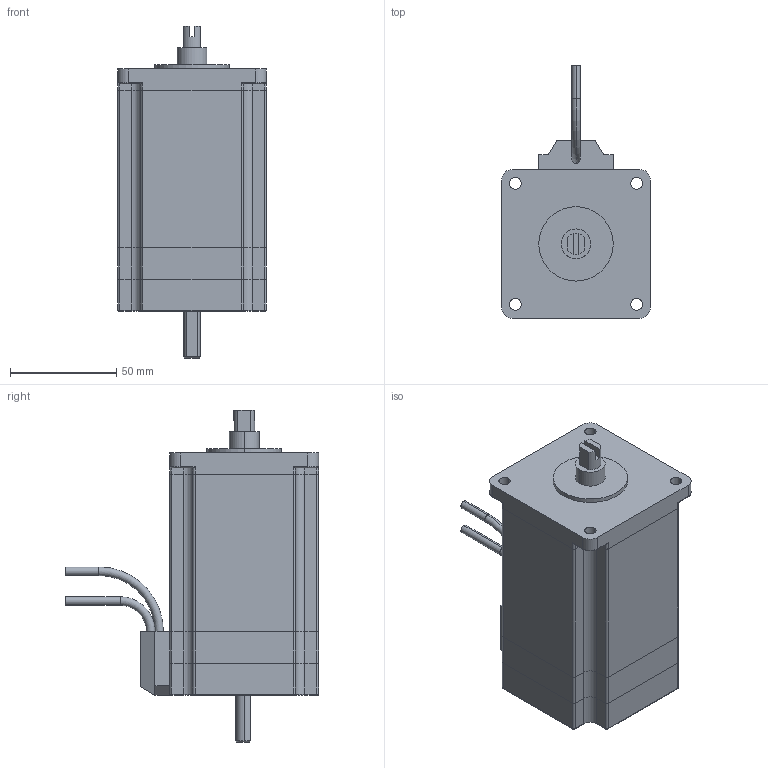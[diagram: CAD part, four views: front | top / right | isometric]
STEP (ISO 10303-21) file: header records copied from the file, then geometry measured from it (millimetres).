
FILE_DESCRIPTION (( 'STEP AP214' ), '1' );
FILE_NAME ('PBL70-70.STEP', '2024-01-02T09:06:25', ( '' ), ( '' ), 'SwSTEP 2.0', 'SolidWorks 2023', '' );
FILE_SCHEMA (( 'AUTOMOTIVE_DESIGN' ));
Length unit declared in the file: millimetre
Products named in the file (1): PBL70-70
Bounding box: 70 x 119.11 x 156.2 mm (x, y, z)
Volume: 525954.9 mm3; surface area: 45165.4 mm2
Topology: 1 solids, 1 shells, 214 faces, 492 edges, 281 vertices
Faces by surface type: cylinder 102, plane 81, torus 20, cone 11
Entity records: 8452 total; most frequent: CARTESIAN_POINT 1188, DIRECTION 1091, ORIENTED_EDGE 968, EDGE_CURVE 484, AXIS2_PLACEMENT_3D 404, LINE 283, VECTOR 283, VERTEX_POINT 281
